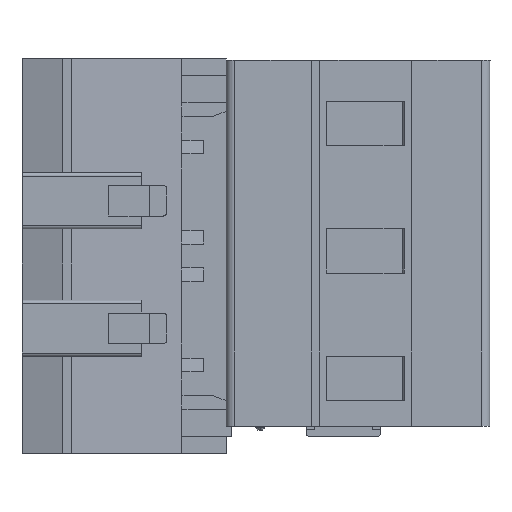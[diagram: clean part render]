
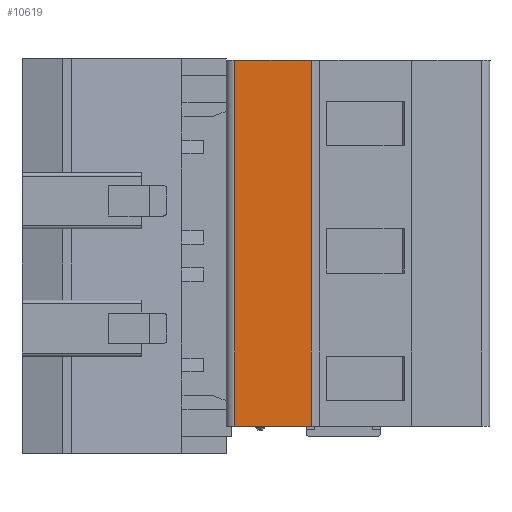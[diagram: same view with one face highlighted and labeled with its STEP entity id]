
A CAD part, left-side view. The second image highlights one B-rep face of the part: STEP entity #10619.
In plain terms, the highlighted planar face has unit normal (-1, 0, 0).
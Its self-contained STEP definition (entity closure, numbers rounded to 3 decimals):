
#2538=DIRECTION('',(0.,0.,-1.));
#2539=VECTOR('',#2538,21.5);
#2540=CARTESIAN_POINT('',(1.3,15.,0.));
#2541=LINE('',#2540,#2539);
#2546=DIRECTION('',(0.,1.,0.));
#2547=VECTOR('',#2546,4.5);
#2548=CARTESIAN_POINT('',(1.3,10.5,-21.5));
#2549=LINE('',#2548,#2547);
#2550=DIRECTION('',(0.,-1.,0.));
#2551=VECTOR('',#2550,4.5);
#2552=CARTESIAN_POINT('',(1.3,15.,0.));
#2553=LINE('',#2552,#2551);
#2554=DIRECTION('',(0.,0.,1.));
#2555=VECTOR('',#2554,21.5);
#2556=CARTESIAN_POINT('',(1.3,10.5,-21.5));
#2557=LINE('',#2556,#2555);
#5442=CARTESIAN_POINT('',(1.3,10.5,0.));
#5443=VERTEX_POINT('',#5442);
#5444=CARTESIAN_POINT('',(1.3,15.,0.));
#5445=VERTEX_POINT('',#5444);
#5844=CARTESIAN_POINT('',(1.3,15.,-21.5));
#5845=VERTEX_POINT('',#5844);
#5846=CARTESIAN_POINT('',(1.3,10.5,-21.5));
#5847=VERTEX_POINT('',#5846);
#10607=CARTESIAN_POINT('',(1.3,15.4,
-1.5));
#10608=DIRECTION('',(-1.,0.,0.));
#10609=DIRECTION('',(0.,-1.,0.));
#10610=AXIS2_PLACEMENT_3D('',#10607,#10608,#10609);
#10611=PLANE('',#10610);
#10613=ORIENTED_EDGE('',*,*,#10612,.F.);
#10614=ORIENTED_EDGE('',*,*,#8853,.T.);
#10615=ORIENTED_EDGE('',*,*,#10599,.F.);
#10616=ORIENTED_EDGE('',*,*,#7328,.T.);
#10617=EDGE_LOOP('',(#10613,#10614,#10615,#10616));
#10618=FACE_OUTER_BOUND('',#10617,.F.);
#10619=ADVANCED_FACE('',(#10618),#10611,.T.);
#7328=EDGE_CURVE('',#5445,#5443,#2553,.T.);
#8853=EDGE_CURVE('',#5847,#5845,#2549,.T.);
#10599=EDGE_CURVE('',#5445,#5845,#2541,.T.);
#10612=EDGE_CURVE('',#5847,#5443,#2557,.T.);
